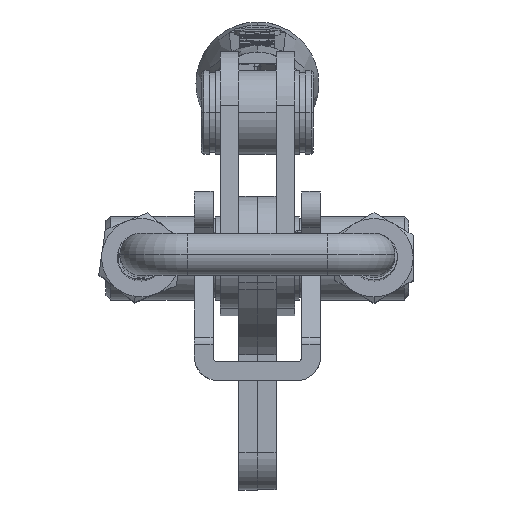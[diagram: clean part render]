
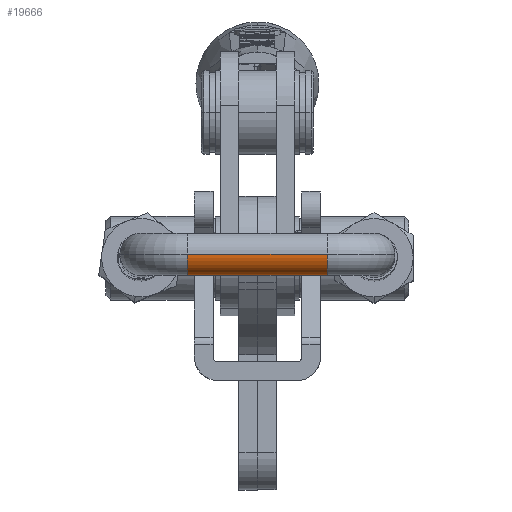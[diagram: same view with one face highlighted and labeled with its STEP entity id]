
A CAD part, left-side view. The second image highlights one B-rep face of the part: STEP entity #19666.
In plain terms, the highlighted cylindrical face has radius 4.5 mm (diameter 9 mm), a partial arc.
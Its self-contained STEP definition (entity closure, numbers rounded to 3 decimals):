
#1186 = EDGE_CURVE ( 'NONE', #8671, #30040, #7987, .T. ) ;
#1497 = DIRECTION ( 'NONE',  ( 0., 0., 1. ) ) ;
#1671 = VERTEX_POINT ( 'NONE', #23193 ) ;
#3350 = AXIS2_PLACEMENT_3D ( 'NONE', #21323, #25347, #25819 ) ;
#3507 = CARTESIAN_POINT ( 'NONE',  ( 0., 0., -15. ) ) ;
#3680 = LINE ( 'NONE', #11141, #27981 ) ;
#3758 = EDGE_CURVE ( 'NONE', #1671, #10208, #3680, .T. ) ;
#3901 = ORIENTED_EDGE ( 'NONE', *, *, #1186, .T. ) ;
#4101 = EDGE_LOOP ( 'NONE', ( #25394, #24392, #3901, #17621 ) ) ;
#5817 = DIRECTION ( 'NONE',  ( 0., 0., -1. ) ) ;
#6329 = CIRCLE ( 'NONE', #24188, 4.5 ) ;
#6880 = CYLINDRICAL_SURFACE ( 'NONE', #3350, 4.5 ) ;
#7987 = LINE ( 'NONE', #17472, #27425 ) ;
#8671 = VERTEX_POINT ( 'NONE', #28155 ) ;
#10208 = VERTEX_POINT ( 'NONE', #28811 ) ;
#11141 = CARTESIAN_POINT ( 'NONE',  ( -4.5, 0., -15. ) ) ;
#12337 = DIRECTION ( 'NONE',  ( 0., 0., 1. ) ) ;
#12462 = AXIS2_PLACEMENT_3D ( 'NONE', #3507, #12979, #13278 ) ;
#12979 = DIRECTION ( 'NONE',  ( 0., 0., -1. ) ) ;
#13278 = DIRECTION ( 'NONE',  ( 1., 0., 0. ) ) ;
#14167 = FACE_OUTER_BOUND ( 'NONE', #4101, .T. ) ;
#17140 = EDGE_CURVE ( 'NONE', #30040, #10208, #6329, .T. ) ;
#17472 = CARTESIAN_POINT ( 'NONE',  ( 4.5, 0., -15. ) ) ;
#17494 = CARTESIAN_POINT ( 'NONE',  ( 0., 0., 15. ) ) ;
#17621 = ORIENTED_EDGE ( 'NONE', *, *, #17140, .T. ) ;
#19666 = ADVANCED_FACE ( 'NONE', ( #14167 ), #6880, .T. ) ;
#19931 = CIRCLE ( 'NONE', #12462, 4.5 ) ;
#21323 = CARTESIAN_POINT ( 'NONE',  ( 0., 0., -15. ) ) ;
#23193 = CARTESIAN_POINT ( 'NONE',  ( -4.5, 0., -15. ) ) ;
#23798 = CARTESIAN_POINT ( 'NONE',  ( 4.5, 0., 15. ) ) ;
#24188 = AXIS2_PLACEMENT_3D ( 'NONE', #17494, #5817, #24465 ) ;
#24392 = ORIENTED_EDGE ( 'NONE', *, *, #26937, .F. ) ;
#24465 = DIRECTION ( 'NONE',  ( 1., 0., 0. ) ) ;
#25347 = DIRECTION ( 'NONE',  ( 0., 0., 1. ) ) ;
#25394 = ORIENTED_EDGE ( 'NONE', *, *, #3758, .F. ) ;
#25819 = DIRECTION ( 'NONE',  ( 1., 0., 0. ) ) ;
#26937 = EDGE_CURVE ( 'NONE', #8671, #1671, #19931, .T. ) ;
#27425 = VECTOR ( 'NONE', #12337, 1000. ) ;
#27981 = VECTOR ( 'NONE', #1497, 1000. ) ;
#28155 = CARTESIAN_POINT ( 'NONE',  ( 4.5, 0., -15. ) ) ;
#28811 = CARTESIAN_POINT ( 'NONE',  ( -4.5, 0., 15. ) ) ;
#30040 = VERTEX_POINT ( 'NONE', #23798 ) ;
